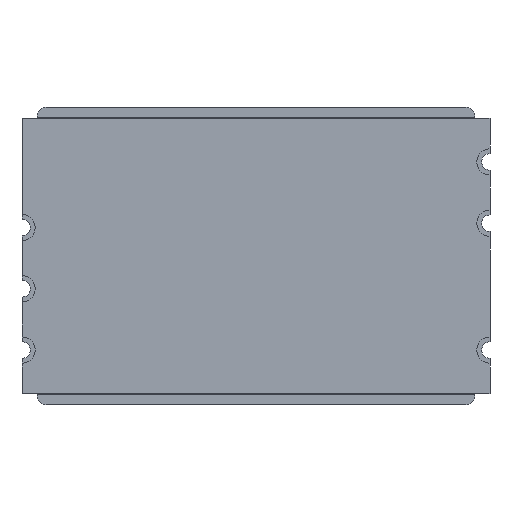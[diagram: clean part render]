
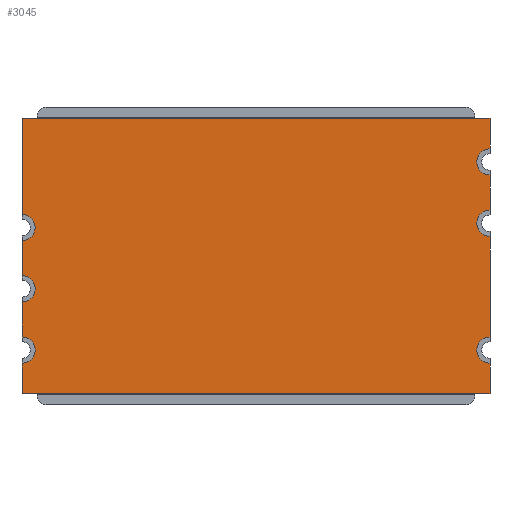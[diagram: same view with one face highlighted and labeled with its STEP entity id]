
A CAD part, front view. The second image highlights one B-rep face of the part: STEP entity #3045.
In plain terms, the highlighted planar face has unit normal (0, -1, 0) as drawn and (0, 0, 1) by its records, which use the part's own axes.
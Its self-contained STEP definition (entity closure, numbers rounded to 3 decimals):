
#187=FACE_OUTER_BOUND('',#359,.T.);
#359=EDGE_LOOP('',(#2315,#2316,#2317,#2318,#2319,#2320,#2321,#2322,#2323,
#2324,#2325,#2326,#2327,#2328,#2329,#2330));
#504=CIRCLE('',#3373,1.);
#506=CIRCLE('',#3379,1.);
#508=CIRCLE('',#3383,1.);
#510=CIRCLE('',#3387,1.);
#512=CIRCLE('',#3393,1.);
#514=CIRCLE('',#3397,1.);
#681=LINE('',#4816,#1001);
#686=LINE('',#4829,#1006);
#689=LINE('',#4835,#1009);
#692=LINE('',#4841,#1012);
#696=LINE('',#4853,#1016);
#700=LINE('',#4865,#1020);
#704=LINE('',#4877,#1024);
#707=LINE('',#4883,#1027);
#710=LINE('',#4889,#1030);
#714=LINE('',#4901,#1034);
#1001=VECTOR('',#3891,10.);
#1006=VECTOR('',#3904,10.);
#1009=VECTOR('',#3909,10.);
#1012=VECTOR('',#3914,10.);
#1016=VECTOR('',#3926,10.);
#1020=VECTOR('',#3938,10.);
#1024=VECTOR('',#3950,10.);
#1027=VECTOR('',#3955,10.);
#1030=VECTOR('',#3960,10.);
#1034=VECTOR('',#3972,10.);
#1321=VERTEX_POINT('',#4813);
#1322=VERTEX_POINT('',#4815);
#1324=VERTEX_POINT('',#4821);
#1326=VERTEX_POINT('',#4827);
#1328=VERTEX_POINT('',#4833);
#1330=VERTEX_POINT('',#4839);
#1332=VERTEX_POINT('',#4845);
#1334=VERTEX_POINT('',#4851);
#1336=VERTEX_POINT('',#4857);
#1338=VERTEX_POINT('',#4863);
#1340=VERTEX_POINT('',#4869);
#1342=VERTEX_POINT('',#4875);
#1344=VERTEX_POINT('',#4881);
#1346=VERTEX_POINT('',#4887);
#1348=VERTEX_POINT('',#4893);
#1350=VERTEX_POINT('',#4899);
#1661=EDGE_CURVE('',#1322,#1321,#681,.T.);
#1665=EDGE_CURVE('',#1321,#1324,#504,.T.);
#1668=EDGE_CURVE('',#1324,#1326,#686,.T.);
#1671=EDGE_CURVE('',#1326,#1328,#689,.T.);
#1674=EDGE_CURVE('',#1328,#1330,#692,.T.);
#1677=EDGE_CURVE('',#1330,#1332,#506,.T.);
#1680=EDGE_CURVE('',#1332,#1334,#696,.T.);
#1683=EDGE_CURVE('',#1334,#1336,#508,.T.);
#1686=EDGE_CURVE('',#1336,#1338,#700,.T.);
#1689=EDGE_CURVE('',#1338,#1340,#510,.T.);
#1692=EDGE_CURVE('',#1340,#1342,#704,.T.);
#1695=EDGE_CURVE('',#1342,#1344,#707,.T.);
#1698=EDGE_CURVE('',#1344,#1346,#710,.T.);
#1701=EDGE_CURVE('',#1346,#1348,#512,.T.);
#1704=EDGE_CURVE('',#1348,#1350,#714,.T.);
#1706=EDGE_CURVE('',#1350,#1322,#514,.T.);
#2315=ORIENTED_EDGE('',*,*,#1683,.T.);
#2316=ORIENTED_EDGE('',*,*,#1686,.T.);
#2317=ORIENTED_EDGE('',*,*,#1689,.T.);
#2318=ORIENTED_EDGE('',*,*,#1692,.T.);
#2319=ORIENTED_EDGE('',*,*,#1695,.T.);
#2320=ORIENTED_EDGE('',*,*,#1698,.T.);
#2321=ORIENTED_EDGE('',*,*,#1701,.T.);
#2322=ORIENTED_EDGE('',*,*,#1704,.T.);
#2323=ORIENTED_EDGE('',*,*,#1706,.T.);
#2324=ORIENTED_EDGE('',*,*,#1661,.T.);
#2325=ORIENTED_EDGE('',*,*,#1665,.T.);
#2326=ORIENTED_EDGE('',*,*,#1668,.T.);
#2327=ORIENTED_EDGE('',*,*,#1671,.T.);
#2328=ORIENTED_EDGE('',*,*,#1674,.T.);
#2329=ORIENTED_EDGE('',*,*,#1677,.T.);
#2330=ORIENTED_EDGE('',*,*,#1680,.T.);
#2905=PLANE('',#3398);
#3045=ADVANCED_FACE('',(#187),#2905,.T.);
#3373=AXIS2_PLACEMENT_3D('',#4823,#3898,#3899);
#3379=AXIS2_PLACEMENT_3D('',#4847,#3920,#3921);
#3383=AXIS2_PLACEMENT_3D('',#4859,#3932,#3933);
#3387=AXIS2_PLACEMENT_3D('',#4871,#3944,#3945);
#3393=AXIS2_PLACEMENT_3D('',#4895,#3966,#3967);
#3397=AXIS2_PLACEMENT_3D('',#4904,#3977,#3978);
#3398=AXIS2_PLACEMENT_3D('',#4905,#3979,#3980);
#3891=DIRECTION('',(0.,1.,0.));
#3898=DIRECTION('center_axis',(0.,0.,-1.));
#3899=DIRECTION('ref_axis',(0.,-1.,0.));
#3904=DIRECTION('',(0.,1.,0.));
#3909=DIRECTION('',(-1.,0.,0.));
#3914=DIRECTION('',(0.,-1.,0.));
#3920=DIRECTION('center_axis',(0.,0.,-1.));
#3921=DIRECTION('ref_axis',(0.,1.,0.));
#3926=DIRECTION('',(0.,-1.,0.));
#3932=DIRECTION('center_axis',(0.,0.,-1.));
#3933=DIRECTION('ref_axis',(0.,1.,0.));
#3938=DIRECTION('',(0.,-1.,0.));
#3944=DIRECTION('center_axis',(0.,0.,-1.));
#3945=DIRECTION('ref_axis',(0.,1.,0.));
#3950=DIRECTION('',(0.,-1.,0.));
#3955=DIRECTION('',(1.,0.,0.));
#3960=DIRECTION('',(0.,1.,0.));
#3966=DIRECTION('center_axis',(0.,0.,-1.));
#3967=DIRECTION('ref_axis',(0.,-1.,0.));
#3972=DIRECTION('',(0.,1.,0.));
#3977=DIRECTION('center_axis',(0.,0.,-1.));
#3978=DIRECTION('ref_axis',(0.,-1.,0.));
#3979=DIRECTION('center_axis',(0.,0.,1.));
#3980=DIRECTION('ref_axis',(1.,0.,0.));
#4813=CARTESIAN_POINT('',(53.5,25.5,0.));
#4815=CARTESIAN_POINT('',(53.5,20.5,0.));
#4816=CARTESIAN_POINT('',(53.5,20.5,0.));
#4821=CARTESIAN_POINT('',(53.5,27.5,0.));
#4823=CARTESIAN_POINT('Origin',(53.5,26.5,0.));
#4827=CARTESIAN_POINT('',(53.5,31.5,0.));
#4829=CARTESIAN_POINT('',(53.5,27.5,0.));
#4833=CARTESIAN_POINT('',(0.,31.5,0.));
#4835=CARTESIAN_POINT('',(53.5,31.5,0.));
#4839=CARTESIAN_POINT('',(0.,20.,0.));
#4841=CARTESIAN_POINT('',(0.,31.5,0.));
#4845=CARTESIAN_POINT('',(0.,18.,0.));
#4847=CARTESIAN_POINT('Origin',(0.,19.,0.));
#4851=CARTESIAN_POINT('',(0.,13.,0.));
#4853=CARTESIAN_POINT('',(0.,18.,0.));
#4857=CARTESIAN_POINT('',(0.,11.,0.));
#4859=CARTESIAN_POINT('Origin',(0.,12.,0.));
#4863=CARTESIAN_POINT('',(0.,6.,0.));
#4865=CARTESIAN_POINT('',(0.,11.,0.));
#4869=CARTESIAN_POINT('',(0.,4.,0.));
#4871=CARTESIAN_POINT('Origin',(0.,5.,
0.));
#4875=CARTESIAN_POINT('',(0.,0.,0.));
#4877=CARTESIAN_POINT('',(0.,4.,0.));
#4881=CARTESIAN_POINT('',(53.5,0.,0.));
#4883=CARTESIAN_POINT('',(0.,0.,0.));
#4887=CARTESIAN_POINT('',(53.5,4.,0.));
#4889=CARTESIAN_POINT('',(53.5,0.,0.));
#4893=CARTESIAN_POINT('',(53.5,6.,0.));
#4895=CARTESIAN_POINT('Origin',(53.5,5.,0.));
#4899=CARTESIAN_POINT('',(53.5,18.5,0.));
#4901=CARTESIAN_POINT('',(53.5,6.,0.));
#4904=CARTESIAN_POINT('Origin',(53.5,19.5,0.));
#4905=CARTESIAN_POINT('Origin',(26.75,15.734,0.));
